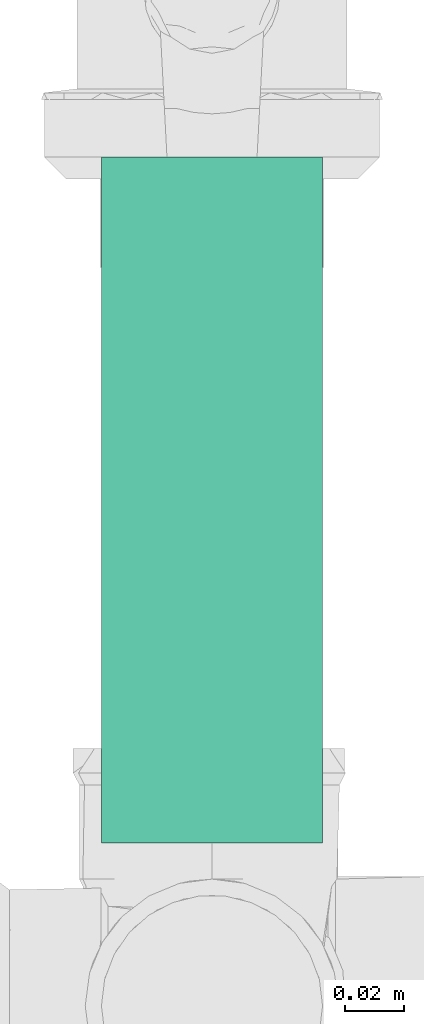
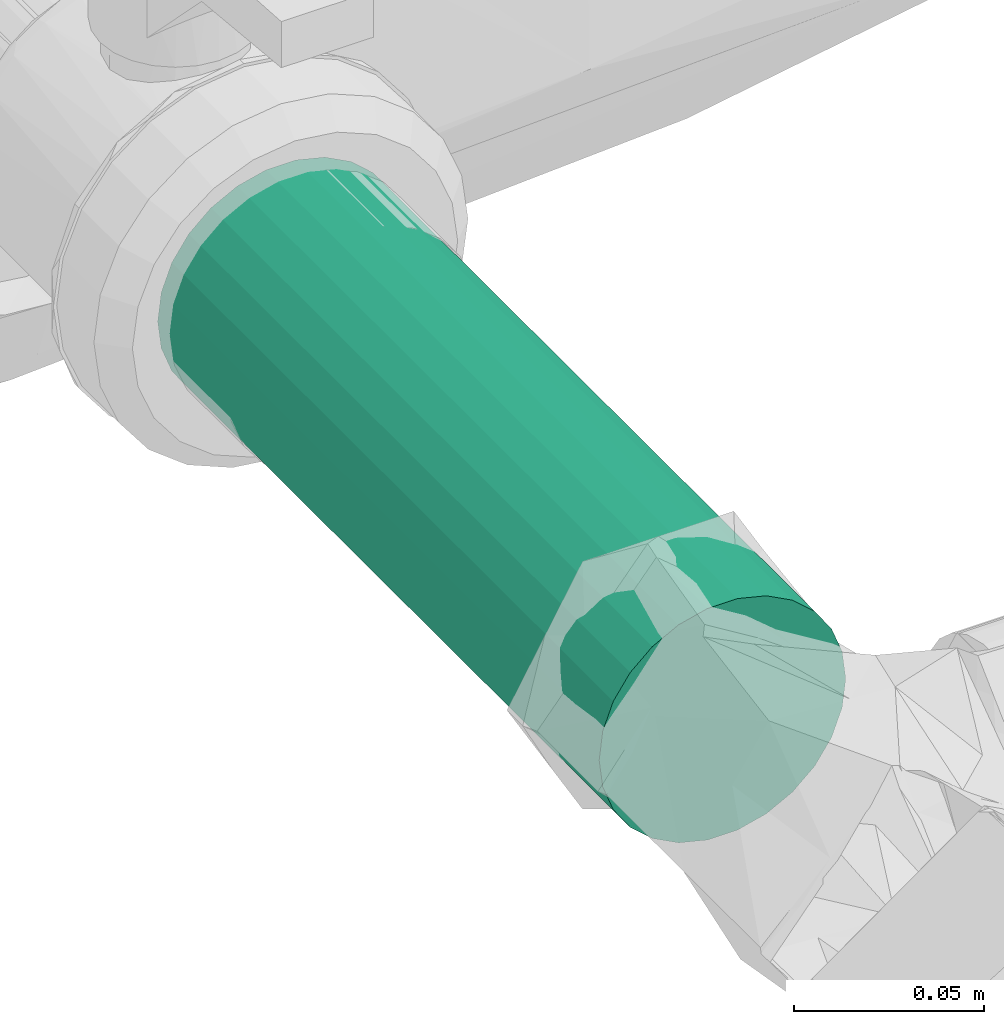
# One storey, part 58 of 166: 1 flow segment.
"""IFC2X3 building model written with IfcOpenShell, lengths in metres."""

from ifc_helpers import new_model, entity, si_unit, converted_unit, direction, frame, origin, origin_2d_with_axis, place, context, subcontext, project, spatial, circle, extrude, type_object, element, save


model = new_model("IFC2X3")

# Units and contexts
model_context = context("Model", 3, precision=1e-05, world=origin(), true_north=direction((6.123233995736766e-17, 1.0)))
body_context = subcontext(model_context, "Body", "Model", "MODEL_VIEW")
ifc_project = project(units=[si_unit("LENGTHUNIT", "METRE"), converted_unit("PLANEANGLEUNIT", "DEGREE", entity("IfcPlaneAngleMeasure", 0.017453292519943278), si_unit("PLANEANGLEUNIT", "RADIAN"), dimensions=[0, 0, 0, 0, 0, 0, 0]), si_unit("AREAUNIT", "SQUARE_METRE")], contexts=[model_context])

# Site, building, storey
site_placement = place(None, origin())
site = spatial("IfcSite", under=ifc_project, at=site_placement, Name="Default", CompositionType="ELEMENT")
building_placement = place(site_placement, origin())
building = spatial("IfcBuilding", under=site, at=building_placement, Name="CASA DE ACOLHIDA PARA IDOSOS", CompositionType="ELEMENT")
storey_placement = place(building_placement, frame((0.0, 0.0, -1.7499999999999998)))
storey = spatial("IfcBuildingStorey", under=building, at=storey_placement, Name="IMPLANTAÇÃO DRENAGEM", CompositionType="ELEMENT", Elevation=-1.7499999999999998)

# Flow segment
pipe_segment_type = type_object("IfcPipeSegmentType", Name="Tipos de tubos:AF_Tubo Marrom Soldável", PredefinedType="NOTDEFINED")
flow_segment_placement = place(storey_placement, origin())
element("IfcFlowSegment", 1, at=flow_segment_placement, inside=storey, type_object=pipe_segment_type, Name="Tipos de tubos:AF_Tubo Marrom Soldável", ObjectType="Tipos de tubos:AF_Tubo Marrom Soldável", context=body_context, shape_type="SweptSolid", body=[
    extrude(circle(Radius=0.037500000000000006, at=origin_2d_with_axis()), frame((-62.75891005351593, -0.19607816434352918, 0.13343317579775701), z_axis=(0.0, 1.0, 0.0), x_axis=(-1.0, 0.0, 0.0)), (0.0, 0.0, 1.0), 0.23258091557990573),
])

save(model, "model.ifc")
